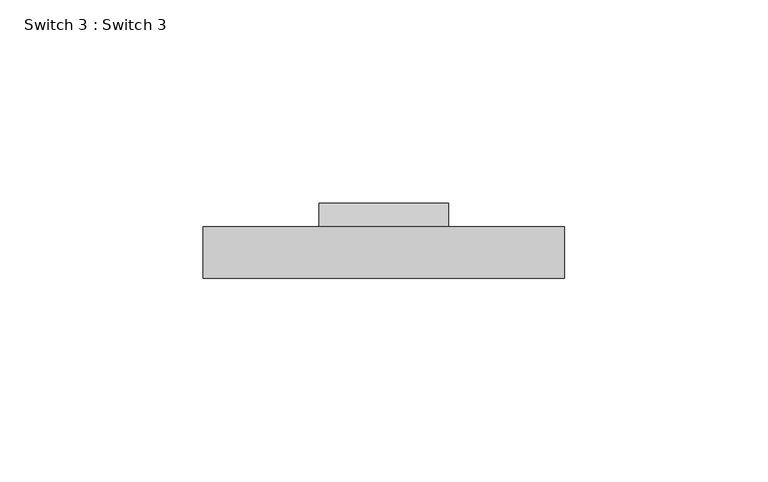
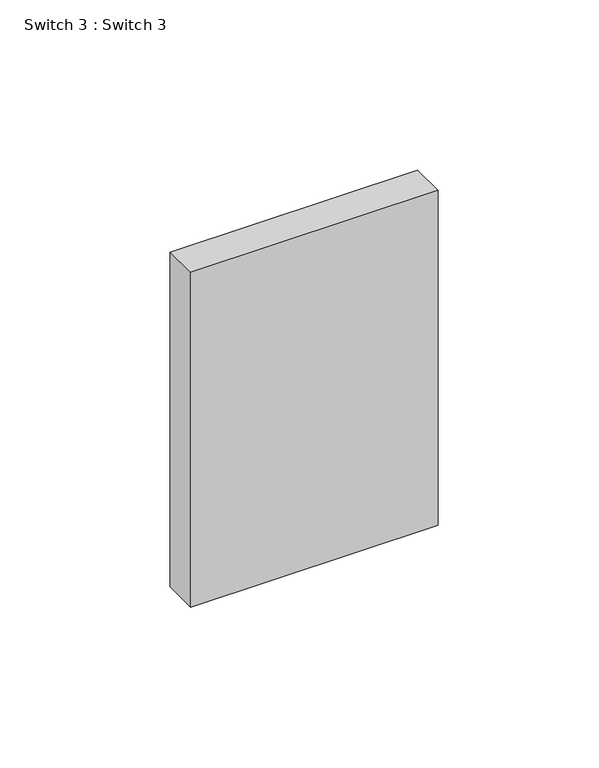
"""IFC4 building model written with IfcOpenShell, lengths in millimetres: proxy geometry, Switch 3 : Switch 3."""

from ifc_helpers import new_model, si_unit, frame, origin, origin_with_axes, place, context, project, spatial, polyline, outline, extrude, source, transform, mapped, element, save


def switch_3_switch_3_40792009(model_context):
    return source(origin(), model_context, "Body", "SweptSolid", [
        extrude(outline(polyline([(12.7, 96.4428102), (18.4607675, 94.8680263), (14.2887413, 71.2103905), (14.2887413, 30.5571898), (12.7, 30.5571898), (12.7, 96.4428102)])), frame((-19.7521692, 0.0, 0.0), z_axis=(1.0, 0.0, 0.0), x_axis=(0.0, 1.0, 0.0)), (0.0, 0.0, 1.0), 31.75),
        extrude(outline(polyline([(-48.3271692, 12.7), (40.5728308, 12.7), (40.5728308, 0.0), (-48.3271692, 0.0), (-48.3271692, 12.7)])), origin_with_axes(), (0.0, 0.0, 1.0), 127.0),
    ])


if __name__ == "__main__":
    model = new_model("IFC4")
    model_context = context("Model", 3, world=origin())
    ifc_project = project(units=[si_unit("LENGTHUNIT", "METRE", prefix="MILLI")], contexts=[model_context])
    site = spatial("IfcSite", under=ifc_project)
    building = spatial("IfcBuilding", under=site)
    placement = place(None, origin())
    switch_3_switch_3_shape = switch_3_switch_3_40792009(model_context)
    element("IfcBuildingElementProxy", 1, Name="Switch 3 : Switch 3", ObjectType="Switch 3 : Switch 3", at=placement, inside=building, context=model_context, shape_type="MappedRepresentation", body=[
        mapped(switch_3_switch_3_shape, transform((0.0, 0.0, 0.0), x_axis=(1.0, 0.0, 0.0), y_axis=(0.0, 1.0, 0.0), z_axis=(0.0, 0.0, 1.0))),
    ])
    save(model, "model.ifc")
